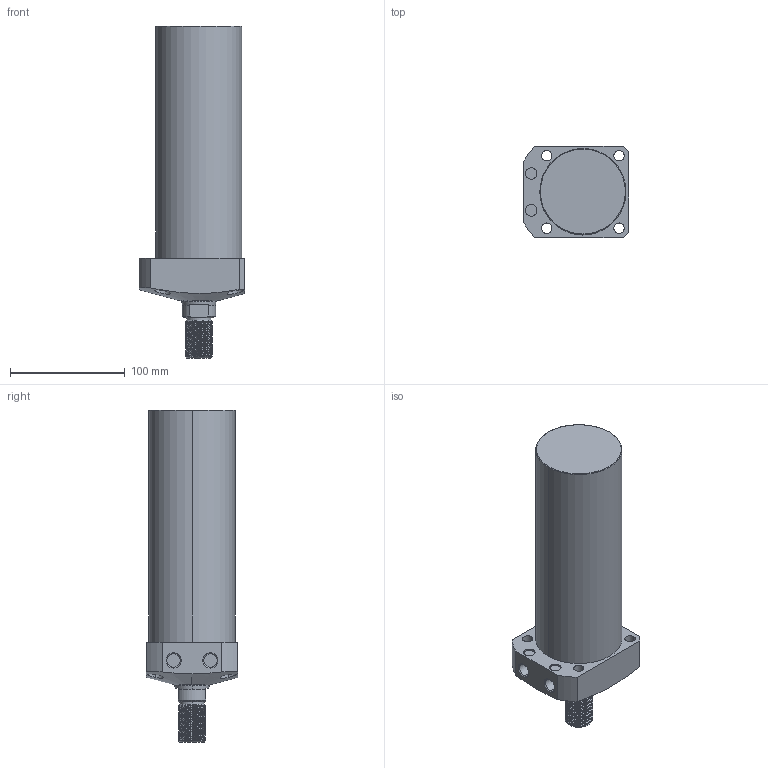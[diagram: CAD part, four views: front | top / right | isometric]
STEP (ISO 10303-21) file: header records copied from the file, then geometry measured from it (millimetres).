
FILE_DESCRIPTION (( 'STEP AP203' ), '1' );
FILE_NAME ('CLL-075CT-165.STEP', '2020-01-08T12:14:10', ( '' ), ( '' ), 'SwSTEP 2.0', 'SolidWorks 2015', '' );
FILE_SCHEMA (( 'CONFIG_CONTROL_DESIGN' ));
Length unit declared in the file: millimetre
Products named in the file (1): CLL-075CT-165
Bounding box: 92 x 80 x 289 mm (x, y, z)
Volume: 1133685.5 mm3; surface area: 82400.1 mm2
Topology: 1 solids, 1 shells, 121 faces, 310 edges, 202 vertices
Faces by surface type: cylinder 77, plane 23, cone 17, torus 2, bspline 2
Entity records: 6531 total; most frequent: CARTESIAN_POINT 3741, ORIENTED_EDGE 620, DIRECTION 517, EDGE_CURVE 310, AXIS2_PLACEMENT_3D 204, VERTEX_POINT 202, EDGE_LOOP 140, FACE_OUTER_BOUND 121
